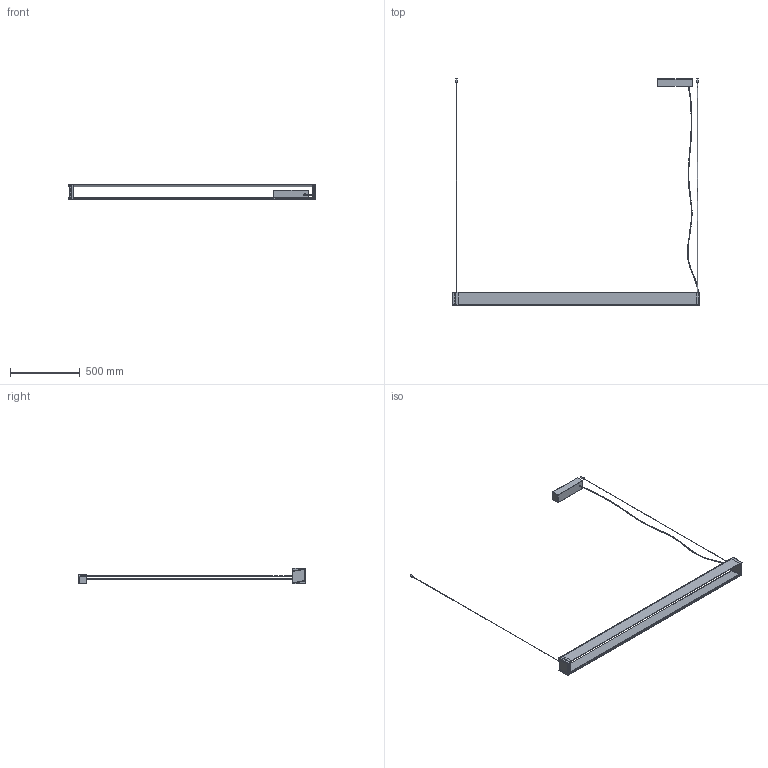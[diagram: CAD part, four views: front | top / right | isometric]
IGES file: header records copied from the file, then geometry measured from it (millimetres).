
Start section: SolidWorks IGES file using analytic representation for surfaces
Global section: file name: C:\Users\tungari.NEMOLIGHTING\Desktop\3D\PENDANT\3D_TRU_UPDOWN_HORIZONTAL\DEF2_UPDOWN\3D_TRU_UPDOWN_PENDANT.IGS; native system: SolidWorks 2016; preprocessor: SolidWorks 2016; author: tungari; date: 180409.171553; units: millimetre
Bounding box: 1770.84 x 1623.95 x 112 mm (x, y, z)
Surface area: 1028562.7 mm2 (no closed solid volume)
Topology: 0 solids, 0 shells, 356 faces, 3287 edges, 3278 vertices
Faces by surface type: bspline 256, revolution 100
